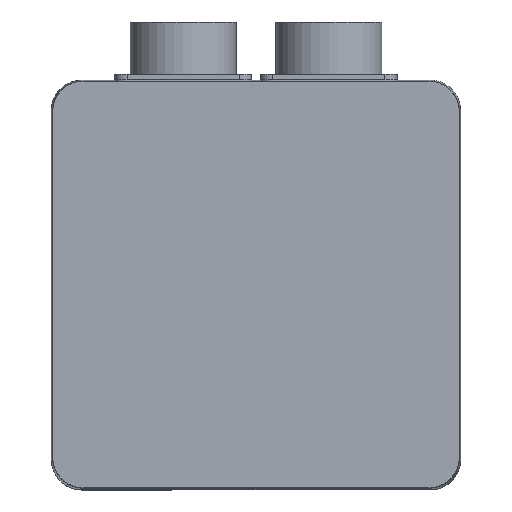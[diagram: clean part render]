
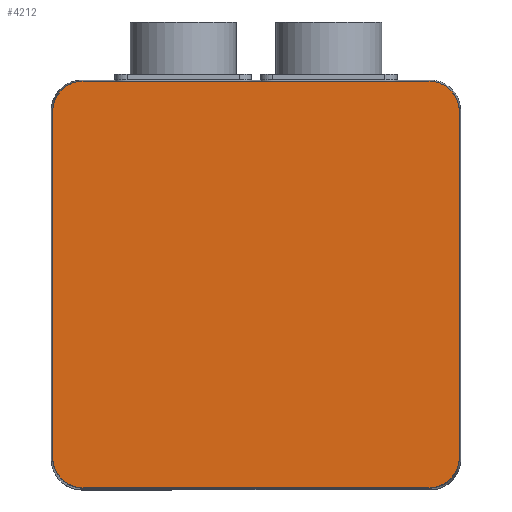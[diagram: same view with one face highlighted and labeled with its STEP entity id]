
A CAD part, top view. The second image highlights one B-rep face of the part: STEP entity #4212.
In plain terms, the highlighted planar face has unit normal (0, 0, 1).
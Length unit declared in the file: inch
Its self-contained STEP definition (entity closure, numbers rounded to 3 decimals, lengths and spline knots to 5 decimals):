
#3676=CARTESIAN_POINT('',(1.675,1.425,4.195));
#3677=VERTEX_POINT('',#3676);
#3684=CARTESIAN_POINT('',(1.675,-1.425,4.195));
#3685=VERTEX_POINT('',#3684);
#3686=CARTESIAN_POINT('',(1.675,1.425,4.195));
#3687=DIRECTION('',(0.0,-1.0,0.0));
#3688=VECTOR('',#3687,2.85);
#3689=LINE('',#3686,#3688);
#3690=EDGE_CURVE('',#3677,#3685,#3689,.T.);
#3755=CARTESIAN_POINT('',(1.425,1.675,4.195));
#3756=VERTEX_POINT('',#3755);
#3763=CARTESIAN_POINT('',(1.425,1.425,4.195));
#3764=DIRECTION('',(0.0,0.0,-1.));
#3765=DIRECTION('',(0.707,0.707,0.0));
#3766=AXIS2_PLACEMENT_3D('',#3763,#3764,#3765);
#3767=CIRCLE('',#3766,0.25);
#3768=EDGE_CURVE('',#3756,#3677,#3767,.T.);
#3818=CARTESIAN_POINT('',(-1.425,1.675,4.195));
#3819=VERTEX_POINT('',#3818);
#3826=CARTESIAN_POINT('',(-1.425,1.675,4.195));
#3827=DIRECTION('',(1.0,0.0,0.0));
#3828=VECTOR('',#3827,2.85);
#3829=LINE('',#3826,#3828);
#3830=EDGE_CURVE('',#3819,#3756,#3829,.T.);
#3883=CARTESIAN_POINT('',(-1.675,1.425,4.195));
#3884=VERTEX_POINT('',#3883);
#3891=CARTESIAN_POINT('',(-1.425,1.425,4.195));
#3892=DIRECTION('',(0.0,0.0,-1.));
#3893=DIRECTION('',(-0.707,0.707,0.0));
#3894=AXIS2_PLACEMENT_3D('',#3891,#3892,#3893);
#3895=CIRCLE('',#3894,0.25);
#3896=EDGE_CURVE('',#3884,#3819,#3895,.T.);
#3969=CARTESIAN_POINT('',(1.425,-1.675,4.195));
#3970=VERTEX_POINT('',#3969);
#3977=CARTESIAN_POINT('',(-1.425,-1.675,4.195));
#3978=VERTEX_POINT('',#3977);
#3979=CARTESIAN_POINT('',(1.425,-1.675,4.195));
#3980=DIRECTION('',(-1.0,0.0,0.0));
#3981=VECTOR('',#3980,2.85);
#3982=LINE('',#3979,#3981);
#3983=EDGE_CURVE('',#3970,#3978,#3982,.T.);
#4001=CARTESIAN_POINT('',(1.425,-1.425,4.195));
#4002=DIRECTION('',(0.0,0.0,-1.));
#4003=DIRECTION('',(0.707,-0.707,0.0));
#4004=AXIS2_PLACEMENT_3D('',#4001,#4002,#4003);
#4005=CIRCLE('',#4004,0.25);
#4006=EDGE_CURVE('',#3685,#3970,#4005,.T.);
#4173=CARTESIAN_POINT('',(-1.675,-1.425,4.195));
#4174=VERTEX_POINT('',#4173);
#4181=CARTESIAN_POINT('',(-1.675,-1.425,4.195));
#4182=DIRECTION('',(0.0,1.0,0.0));
#4183=VECTOR('',#4182,2.85);
#4184=LINE('',#4181,#4183);
#4185=EDGE_CURVE('',#4174,#3884,#4184,.T.);
#4191=CARTESIAN_POINT('',(0.,0.,4.195));
#4192=DIRECTION('',(0.0,0.0,1.0));
#4193=DIRECTION('',(1.0,0.0,0.0));
#4194=AXIS2_PLACEMENT_3D('',#4191,#4192,#4193);
#4195=PLANE('',#4194);
#4196=CARTESIAN_POINT('',(-1.425,-1.425,4.195));
#4197=DIRECTION('',(0.0,0.0,-1.));
#4198=DIRECTION('',(-0.707,-0.707,0.0));
#4199=AXIS2_PLACEMENT_3D('',#4196,#4197,#4198);
#4200=CIRCLE('',#4199,0.25);
#4201=EDGE_CURVE('',#3978,#4174,#4200,.T.);
#4202=ORIENTED_EDGE('',*,*,#4201,.F.);
#4203=ORIENTED_EDGE('',*,*,#3983,.F.);
#4204=ORIENTED_EDGE('',*,*,#4006,.F.);
#4205=ORIENTED_EDGE('',*,*,#3690,.F.);
#4206=ORIENTED_EDGE('',*,*,#3768,.F.);
#4207=ORIENTED_EDGE('',*,*,#3830,.F.);
#4208=ORIENTED_EDGE('',*,*,#3896,.F.);
#4209=ORIENTED_EDGE('',*,*,#4185,.F.);
#4210=EDGE_LOOP('',(#4202,#4203,#4204,#4205,#4206,#4207,#4208,#4209));
#4211=FACE_OUTER_BOUND('',#4210,.T.);
#4212=ADVANCED_FACE('',(#4211),#4195,.T.);
